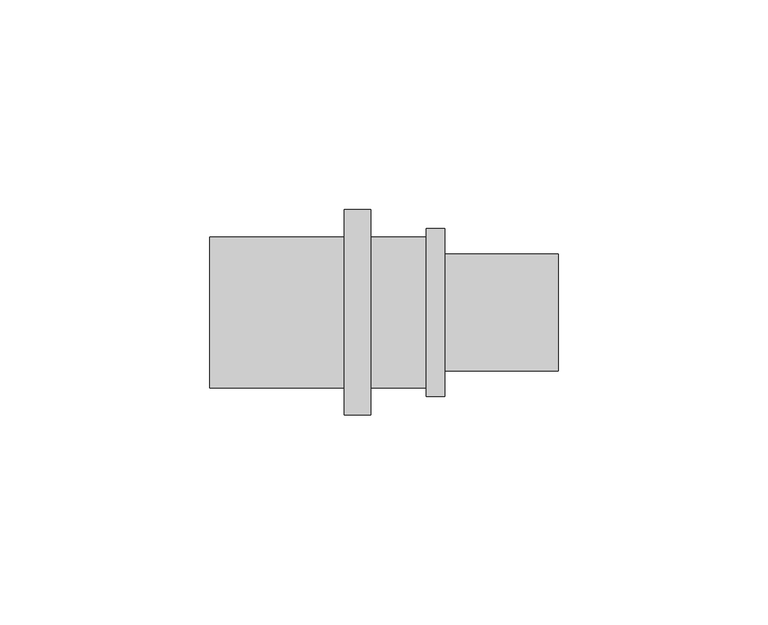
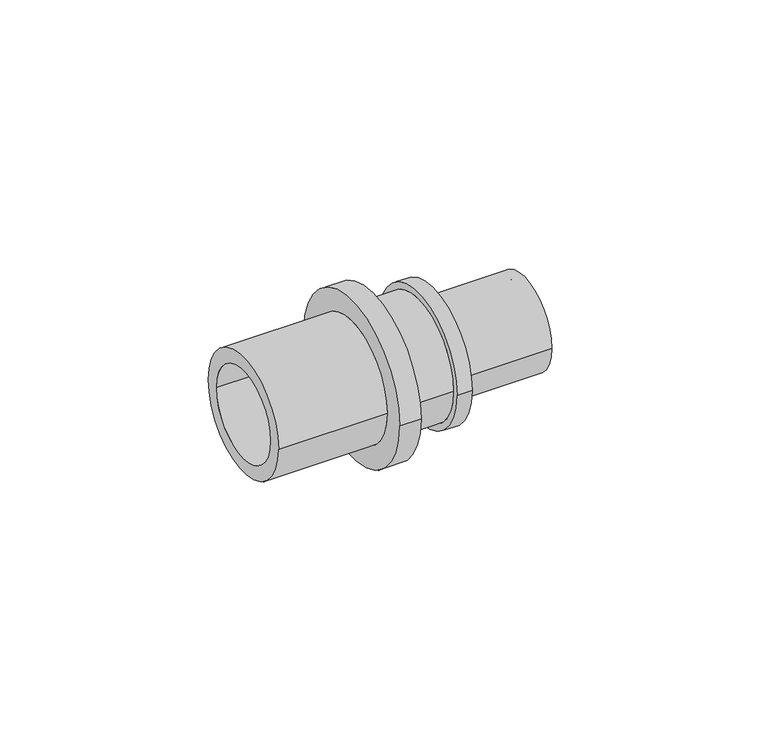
"""IFC4 building model written with IfcOpenShell, lengths in millimetres: pipe fitting geometry, Coupling transistion : C RE SDR11 LX."""

from ifc_helpers import new_model, si_unit, frame, origin, place, context, project, spatial, polyline, circle_curve, source, transform, mapped, element, save
from ifc_brep_helpers import plane_surface, cylinder_surface, revolved_surface, advanced_brep


def pipe_fitting_0d2e2301(model_context):
    return source(origin(), model_context, "Body", "AdvancedBrep", [
        advanced_brep(
        [(-12.0, 18.0, 0.0), (-12.0, -18.0, 0.0), (-44.0, -18.0, 0.0), (-44.0, 18.0, 0.0), (-5.7, 24.5, 0.0), (-5.7, -24.5, 0.0), (-12.0, -24.5, 0.0), (-12.0, 24.5, 0.0), (7.6, 18.0, 0.0), (7.6, -18.0, 0.0), (-5.7, -18.0, 0.0), (-5.7, 18.0, 0.0), (12.0, 20.0, 0.0), (12.0, -20.0, 0.0), (7.6, -20.0, 0.0), (7.6, 20.0, 0.0), (39.0, 13.95, 0.0), (39.0, -13.95, 0.0), (12.0, -13.95, 0.0), (12.0, 13.95, 0.0), (0.0, 11.2, 0.0), (0.0, -11.2, 0.0), (39.0, -11.2, 0.0), (39.0, 11.2, 0.0), (-44.0, 13.75, 0.0), (-44.0, -13.75, 0.0), (0.0, -13.75, 0.0), (0.0, 13.75, 0.0)],
        [
            (0, 1, circle_curve(frame((-12.0, 0.0, 0.0), z_axis=(-1.0, 0.0, 0.0), x_axis=(0.0, -1.0, 0.0)), 18.0)),
            (1, 2),
            (2, 3, circle_curve(frame((-44.0, 0.0, 0.0), z_axis=(1.0, 0.0, 0.0), x_axis=(0.0, -1.0, 0.0)), 18.0)),
            (3, 0),
            (4, 5, circle_curve(frame((-5.7, 0.0, 0.0), z_axis=(-1.0, 0.0, 0.0), x_axis=(0.0, -1.0, 0.0)), 24.5)),
            (5, 6),
            (6, 7, circle_curve(frame((-12.0, 0.0, 0.0), z_axis=(1.0, 0.0, 0.0), x_axis=(0.0, -1.0, 0.0)), 24.5)),
            (7, 4),
            (8, 9, circle_curve(frame((7.6, 0.0, 0.0), z_axis=(-1.0, 0.0, 0.0), x_axis=(0.0, -1.0, 0.0)), 18.0)),
            (9, 10),
            (10, 11, circle_curve(frame((-5.7, 0.0, 0.0), z_axis=(1.0, 0.0, 0.0), x_axis=(0.0, -1.0, 0.0)), 18.0)),
            (11, 8),
            (12, 13, circle_curve(frame((12.0, 0.0, 0.0), z_axis=(-1.0, 0.0, 0.0), x_axis=(0.0, -1.0, 0.0)), 20.0)),
            (13, 14),
            (14, 15, circle_curve(frame((7.6, 0.0, 0.0), z_axis=(1.0, 0.0, 0.0), x_axis=(0.0, -1.0, 0.0)), 20.0)),
            (15, 12),
            (16, 17, circle_curve(frame((39.0, 0.0, 0.0), z_axis=(-1.0, 0.0, 0.0), x_axis=(0.0, -1.0, 0.0)), 13.95)),
            (17, 18),
            (18, 19, circle_curve(frame((12.0, 0.0, 0.0), z_axis=(1.0, 0.0, 0.0), x_axis=(0.0, -1.0, 0.0)), 13.95)),
            (19, 16),
            (20, 21, circle_curve(frame((0.0, 0.0, 0.0), z_axis=(-1.0, 0.0, 0.0), x_axis=(0.0, -1.0, 0.0)), 11.2)),
            (21, 22),
            (22, 23, circle_curve(frame((39.0, 0.0, 0.0), z_axis=(1.0, 0.0, 0.0), x_axis=(0.0, -1.0, 0.0)), 11.2)),
            (23, 20),
            (24, 25, circle_curve(frame((-44.0, 0.0, 0.0), z_axis=(-1.0, 0.0, 0.0), x_axis=(0.0, -1.0, 0.0)), 13.75)),
            (25, 26),
            (26, 27, circle_curve(frame((0.0, 0.0, 0.0), z_axis=(1.0, 0.0, 0.0), x_axis=(0.0, -1.0, 0.0)), 13.75)),
            (27, 24),
            (2, 3, circle_curve(frame((-44.0, 0.0, 0.0), z_axis=(-1.0, 0.0, 0.0), x_axis=(0.0, 1.0, 0.0)), 18.0)),
            (24, 25, circle_curve(frame((-44.0, 0.0, 0.0), z_axis=(1.0, 0.0, 0.0), x_axis=(0.0, 1.0, 0.0)), 13.75)),
            (1, 0, circle_curve(frame((-12.0, 0.0, 0.0), z_axis=(-1.0, 0.0, 0.0), x_axis=(0.0, 1.0, 0.0)), 18.0)),
            (6, 7, circle_curve(frame((-12.0, 0.0, 0.0), z_axis=(-1.0, 0.0, 0.0), x_axis=(0.0, 1.0, 0.0)), 24.5)),
            (5, 4, circle_curve(frame((-5.7, 0.0, 0.0), z_axis=(-1.0, 0.0, 0.0), x_axis=(0.0, 1.0, 0.0)), 24.5)),
            (10, 11, circle_curve(frame((-5.7, 0.0, 0.0), z_axis=(-1.0, 0.0, 0.0), x_axis=(0.0, 1.0, 0.0)), 18.0)),
            (9, 8, circle_curve(frame((7.6, 0.0, 0.0), z_axis=(-1.0, 0.0, 0.0), x_axis=(0.0, 1.0, 0.0)), 18.0)),
            (14, 15, circle_curve(frame((7.6, 0.0, 0.0), z_axis=(-1.0, 0.0, 0.0), x_axis=(0.0, 1.0, 0.0)), 20.0)),
            (13, 12, circle_curve(frame((12.0, 0.0, 0.0), z_axis=(-1.0, 0.0, 0.0), x_axis=(0.0, 1.0, 0.0)), 20.0)),
            (18, 19, circle_curve(frame((12.0, 0.0, 0.0), z_axis=(-1.0, 0.0, 0.0), x_axis=(0.0, 1.0, 0.0)), 13.95)),
            (17, 16, circle_curve(frame((39.0, 0.0, 0.0), z_axis=(-1.0, 0.0, 0.0), x_axis=(0.0, 1.0, 0.0)), 13.95)),
            (22, 23, circle_curve(frame((39.0, 0.0, 0.0), z_axis=(-1.0, 0.0, 0.0), x_axis=(0.0, 1.0, 0.0)), 11.2)),
            (21, 20, circle_curve(frame((0.0, 0.0, 0.0), z_axis=(-1.0, 0.0, 0.0), x_axis=(0.0, 1.0, 0.0)), 11.2)),
            (26, 27, circle_curve(frame((0.0, 0.0, 0.0), z_axis=(-1.0, 0.0, 0.0), x_axis=(0.0, 1.0, 0.0)), 13.75)),
        ],
        [
            cylinder_surface(frame((0.0, 0.0, 0.0), z_axis=(1.0, 0.0, 0.0), x_axis=(0.0, -1.0, 0.0)), 18.0),
            cylinder_surface(frame((0.0, 0.0, 0.0), z_axis=(1.0, 0.0, 0.0), x_axis=(0.0, -1.0, 0.0)), 24.5),
            cylinder_surface(frame((0.0, 0.0, 0.0), z_axis=(1.0, 0.0, 0.0), x_axis=(0.0, -1.0, 0.0)), 20.0),
            cylinder_surface(frame((0.0, 0.0, 0.0), z_axis=(1.0, 0.0, 0.0), x_axis=(0.0, -1.0, 0.0)), 13.95),
            revolved_surface(polyline([(39.0, -11.2, 0.0), (0.0, -11.2, 0.0)]), (0.0, 0.0, 0.0), (1.0, 0.0, 0.0)),
            revolved_surface(polyline([(0.0, -13.75, 0.0), (-44.0, -13.75, 0.0)]), (0.0, 0.0, 0.0), (1.0, 0.0, 0.0)),
            plane_surface(frame((-44.0, 0.0, 0.0), z_axis=(-1.0, 0.0, 0.0), x_axis=(0.0, 1.0, 0.0))),
            cylinder_surface(frame((0.0, 0.0, 0.0), z_axis=(1.0, 0.0, 0.0), x_axis=(0.0, 1.0, 0.0)), 18.0),
            plane_surface(frame((-12.0, 0.0, 0.0), z_axis=(-1.0, 0.0, 0.0), x_axis=(0.0, 1.0, 0.0))),
            cylinder_surface(frame((0.0, 0.0, 0.0), z_axis=(1.0, 0.0, 0.0), x_axis=(0.0, 1.0, 0.0)), 24.5),
            plane_surface(frame((-5.7, 0.0, 0.0), z_axis=(1.0, 0.0, 0.0), x_axis=(0.0, 1.0, 0.0))),
            plane_surface(frame((7.6, 0.0, 0.0), z_axis=(-1.0, 0.0, 0.0), x_axis=(0.0, 1.0, 0.0))),
            cylinder_surface(frame((0.0, 0.0, 0.0), z_axis=(1.0, 0.0, 0.0), x_axis=(0.0, 1.0, 0.0)), 20.0),
            plane_surface(frame((12.0, 0.0, 0.0), z_axis=(1.0, 0.0, 0.0), x_axis=(0.0, 1.0, 0.0))),
            cylinder_surface(frame((0.0, 0.0, 0.0), z_axis=(1.0, 0.0, 0.0), x_axis=(0.0, 1.0, 0.0)), 13.95),
            plane_surface(frame((39.0, 0.0, 0.0), z_axis=(1.0, 0.0, 0.0), x_axis=(0.0, 1.0, 0.0))),
            revolved_surface(polyline([(39.0, 11.2, 0.0), (0.0, 11.2, 0.0)]), (0.0, 0.0, 0.0), (1.0, 0.0, 0.0)),
            plane_surface(frame((0.0, 0.0, 0.0), z_axis=(-1.0, 0.0, 0.0), x_axis=(0.0, 1.0, 0.0))),
            revolved_surface(polyline([(0.0, 13.75, 0.0), (-44.0, 13.75, 0.0)]), (0.0, 0.0, 0.0), (1.0, 0.0, 0.0)),
        ],
        [
            (0, [[1, 2, 3, 4]]),
            (1, [[5, 6, 7, 8]]),
            (0, [[9, 10, 11, 12]]),
            (2, [[13, 14, 15, 16]]),
            (3, [[17, 18, 19, 20]]),
            (4, [[21, 22, 23, 24]]),
            (5, [[25, 26, 27, 28]]),
            (6, [[29, -3], [30, -25]]),
            (7, [[31, -4, -29, -2]]),
            (8, [[32, -7], [-31, -1]]),
            (9, [[33, -8, -32, -6]]),
            (10, [[-33, -5], [34, -11]]),
            (7, [[35, -12, -34, -10]]),
            (11, [[36, -15], [-35, -9]]),
            (12, [[37, -16, -36, -14]]),
            (13, [[-37, -13], [38, -19]]),
            (14, [[39, -20, -38, -18]]),
            (15, [[-39, -17], [40, -23]]),
            (16, [[41, -24, -40, -22]]),
            (17, [[42, -27], [-41, -21]]),
            (18, [[-30, -28, -42, -26]]),
        ],
    ),
    ])


if __name__ == "__main__":
    model = new_model("IFC4")
    model_context = context("Model", 3, world=origin())
    ifc_project = project(units=[si_unit("LENGTHUNIT", "METRE", prefix="MILLI")], contexts=[model_context])
    site = spatial("IfcSite", under=ifc_project)
    building = spatial("IfcBuilding", under=site)
    placement = place(None, origin())
    pipe_fitting_shape = pipe_fitting_0d2e2301(model_context)
    element("IfcPipeFitting", 1, ObjectType="Coupling transistion : C RE SDR11 LX", at=placement, inside=building, context=model_context, shape_type="MappedRepresentation", body=[
        mapped(pipe_fitting_shape, transform((0.0, 0.0, 0.0), x_axis=(1.0, 0.0, 0.0), y_axis=(0.0, 1.0, 0.0), z_axis=(0.0, 0.0, 1.0))),
    ])
    save(model, "model.ifc")
